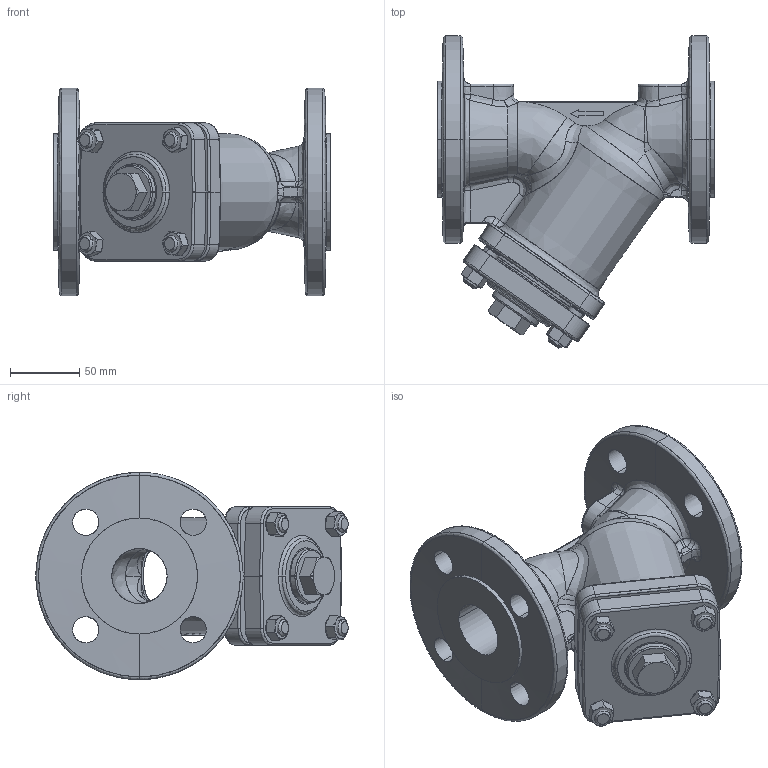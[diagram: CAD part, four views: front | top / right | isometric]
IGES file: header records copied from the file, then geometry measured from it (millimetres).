
Start section: SolidWorks IGES file using analytic representation for surfaces
Global section: file name: D:\katalog z³o¿eñ\00_Gotowe\821\RYSUNKI DXF\Z£O¯ENIA\Part\821_DN40_PN16.IGS; native system: SolidWorks 2010; preprocessor: SolidWorks 2010; author: alisowsk; date: 100108.123213; units: millimetre
Bounding box: 200 x 226.06 x 150 mm (x, y, z)
Surface area: 235510.1 mm2 (no closed solid volume)
Topology: 0 solids, 0 shells, 685 faces, 10550 edges, 10540 vertices
Faces by surface type: bspline 384, revolution 301
